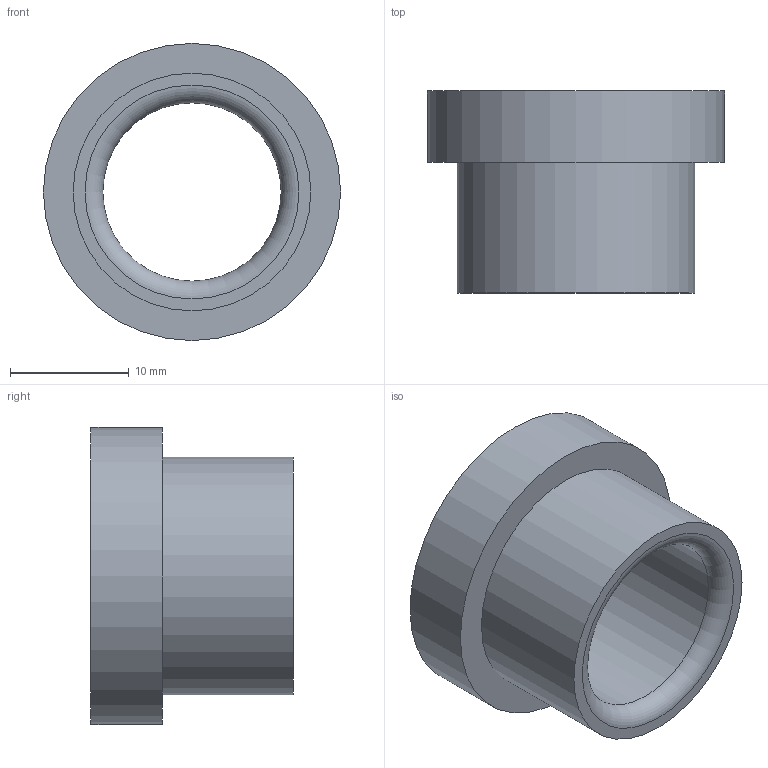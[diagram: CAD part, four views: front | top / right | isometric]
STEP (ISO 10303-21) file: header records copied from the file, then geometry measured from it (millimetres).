
FILE_DESCRIPTION(/* description */ ('STEP AP214'),/* implementation_level */ '2;1');
FILE_NAME(/* name */ '03_12_17907',/* time_stamp */ '2023-06-15T11:35:25+02:00',/* author */ ('License CC BY-ND 4.0'),/* organization */ ('CADENAS'),/* preprocessor_version */ 'ST-DEVELOPER v19.3',/* originating_system */ 'PARTsolutions',/* authorisation */ ' ');
FILE_SCHEMA (('AUTOMOTIVE_DESIGN {1 0 10303 214 3 1 1}'));
Length unit declared in the file: millimetre
Products named in the file (1): VA_Bushing_17907
Bounding box: 25 x 17 x 25 mm (x, y, z)
Volume: 3299.4 mm3; surface area: 2538.3 mm2
Topology: 1 solids, 1 shells, 10 faces, 16 edges, 10 vertices
Faces by surface type: cylinder 4, plane 4, torus 2
Full cylindrical faces by diameter (mm): 15 x1, 15.6 x1, 20 x1, 25 x1
Entity records: 302 total; most frequent: DIRECTION 42, CARTESIAN_POINT 31, AXIS2_PLACEMENT_3D 21, ORIENTED_EDGE 20, EDGE_LOOP 20, FACE_BOUND 20, EDGE_CURVE 10, VERTEX_POINT 10
